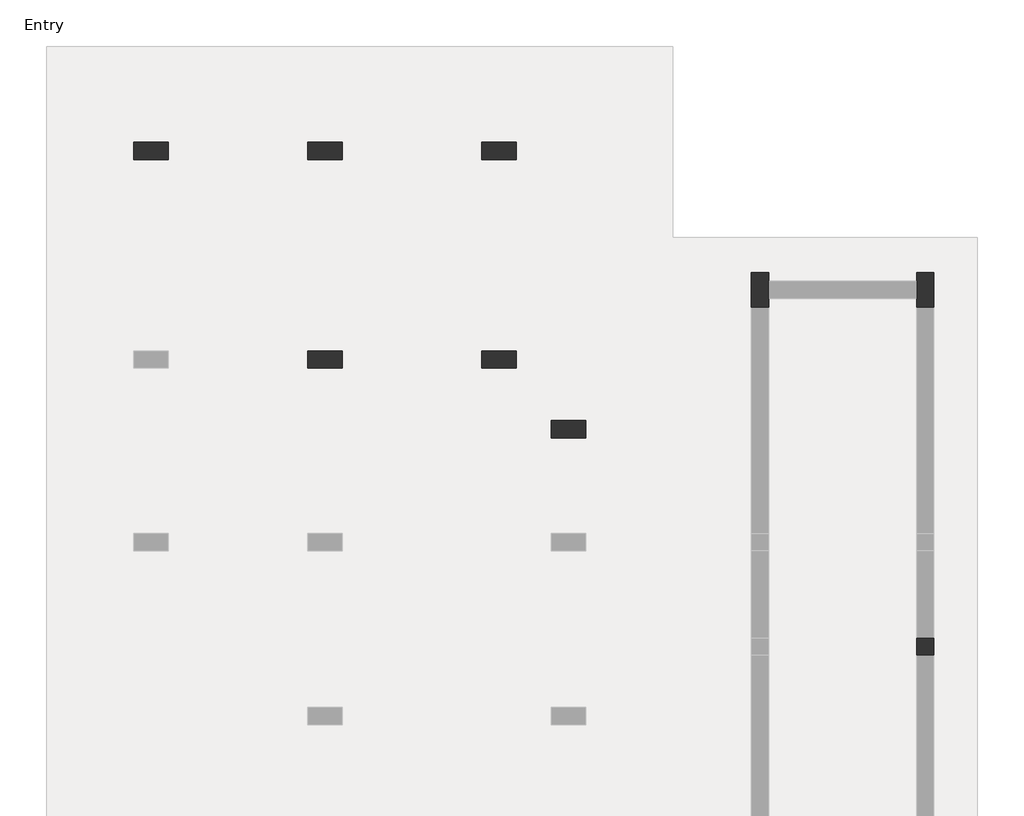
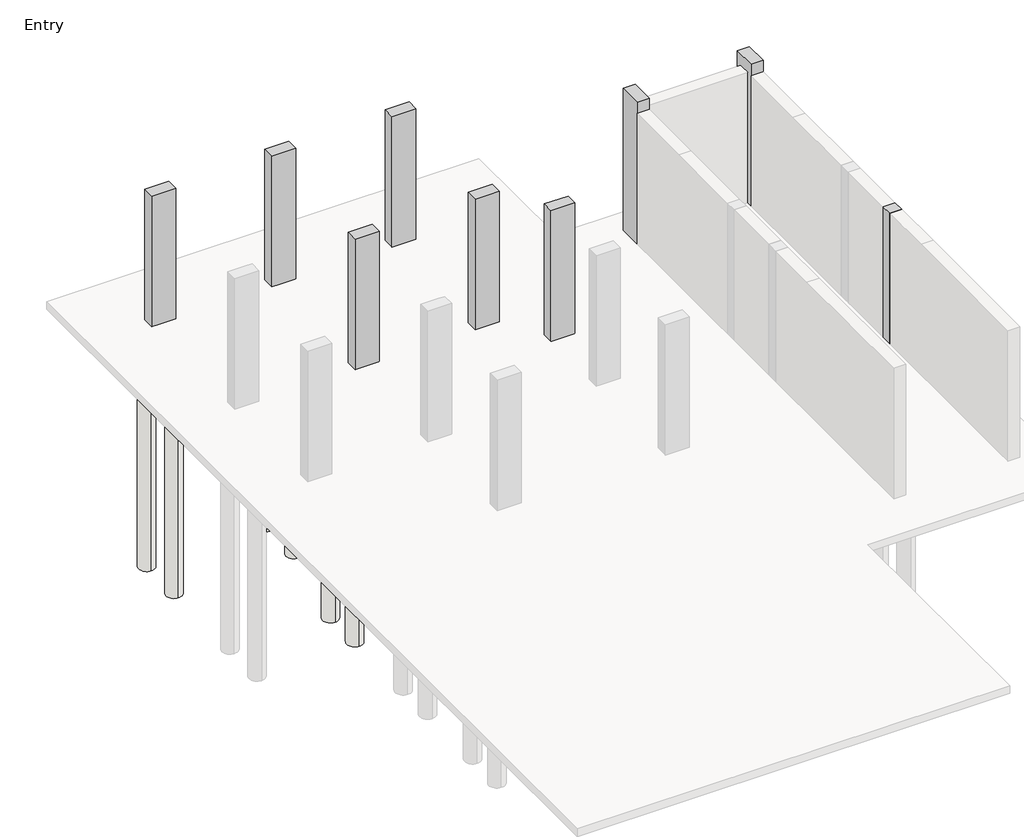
# One storey, part 3 of 3: 30 slabs, 16 columns, 3 footings.
"""IFC4 building model written with IfcOpenShell, lengths in millimetres."""

import ifcopenshell
import ifcopenshell.guid

model = None  # the IFC model being written
_history = None  # IfcOwnerHistory: only IFC2X3 demands one
_inside = {}  # id of a spatial element -> (the spatial element, [elements in it])
_under = {}  # id of a project, library or spatial element -> (it, [spatial elements below it])
_declared = {}  # id of a project -> (the project, [libraries it declares])
_typed = {}  # id of a type object -> (the type object, [elements of that type])
_made_of = {}  # id of a material, layer set ... -> (it, [elements and type objects made of it])


def new_model(schema):
    """Start an empty IFC model of exactly this schema.

    Asked for "IFC4X3", IfcOpenShell would pick the latest addendum, in which some entities
    have other attributes; the version numbers below select the first issue.
    IFC2X3 requires an IfcOwnerHistory on every rooted entity: one is made here for all.
    """
    global model, _history
    if schema == "IFC4X3":
        model = ifcopenshell.file(schema_version=(4, 3, 0, 0))
    else:
        model = ifcopenshell.file(schema=schema)
    _inside.clear()
    _under.clear()
    _declared.clear()
    _typed.clear()
    _made_of.clear()
    _history = None
    if model.schema == "IFC2X3":
        org = make("IfcOrganization", Name="unknown")
        user = make(
            "IfcPersonAndOrganization",
            ThePerson=make("IfcPerson", FamilyName="unknown"),
            TheOrganization=org,
        )
        app = make(
            "IfcApplication",
            ApplicationDeveloper=org,
            Version="unknown",
            ApplicationFullName="unknown",
            ApplicationIdentifier="unknown",
        )
        _history = make(
            "IfcOwnerHistory",
            OwningUser=user,
            OwningApplication=app,
            ChangeAction="ADDED",
            CreationDate=0,
        )
    return model


def make(cls, **values):
    """One entity of the class cls with the attributes given. An attribute that is None is left unset."""
    return model.create_entity(
        cls, **{name: value for name, value in values.items() if value is not None}
    )


def rooted(cls, **values):
    """An entity with a GlobalId (a new one), such as an element, a storey or a relation."""
    return make(cls, GlobalId=ifcopenshell.guid.new(), OwnerHistory=_history, **values)


def si_unit(unit_type, name, prefix=None):
    """IfcSIUnit, for example si_unit("LENGTHUNIT", "METRE", prefix="MILLI")."""
    return make("IfcSIUnit", UnitType=unit_type, Prefix=prefix, Name=name)


def assignment(units):
    """IfcUnitAssignment: the units of a project."""
    return None if units is None else make("IfcUnitAssignment", Units=units)


def point(xyz):
    """IfcCartesianPoint."""
    return None if xyz is None else make("IfcCartesianPoint", Coordinates=xyz)


def direction(xyz):
    """IfcDirection."""
    return None if xyz is None else make("IfcDirection", DirectionRatios=xyz)


def frame(location, z_axis=None, x_axis=None):
    """IfcAxis2Placement3D, a coordinate frame: its origin and axes. An axis left out is left unset."""
    return make(
        "IfcAxis2Placement3D",
        Location=point(location),
        Axis=direction(z_axis),
        RefDirection=direction(x_axis),
    )


def frame_2d(location, x_axis=None):
    """IfcAxis2Placement2D, a coordinate frame in the plane: its origin and x axis."""
    return make(
        "IfcAxis2Placement2D", Location=point(location), RefDirection=direction(x_axis)
    )


def origin():
    """The frame at (0, 0, 0) with its axes left unset."""
    return frame((0.0, 0.0, 0.0))


def origin_with_axes():
    """The frame at (0, 0, 0) with the z axis (0, 0, 1) and the x axis (1, 0, 0) written out."""
    return frame((0.0, 0.0, 0.0), z_axis=(0.0, 0.0, 1.0), x_axis=(1.0, 0.0, 0.0))


def place(relative_to, where):
    """IfcLocalPlacement: puts the frame where relative to a parent placement (None: the world)."""
    return make(
        "IfcLocalPlacement", PlacementRelTo=relative_to, RelativePlacement=where
    )


def context(
    kind, dimensions, precision=None, world=None, true_north=None, identifier=None
):
    """IfcGeometricRepresentationContext, for example the 3D "Model" context."""
    return make(
        "IfcGeometricRepresentationContext",
        ContextIdentifier=identifier,
        ContextType=kind,
        CoordinateSpaceDimension=dimensions,
        Precision=precision,
        WorldCoordinateSystem=world,
        TrueNorth=true_north,
    )


def project(units=None, contexts=None):
    """IfcProject with its units and contexts."""
    return rooted(
        "IfcProject",
        Name="project",
        RepresentationContexts=contexts,
        UnitsInContext=assignment(units),
    )


def spatial(cls, under=None, at=None, **own):
    """A site, building, storey or space (cls), placed at a placement, below another one or the project."""
    s = rooted(cls, ObjectPlacement=at, **own)
    if under is not None:
        _under.setdefault(under.id(), (under, []))[1].append(s)
    return s


def polyline(points):
    """IfcPolyline through the points."""
    return make("IfcPolyline", Points=[point(p) for p in points])


def circle_curve(where, radius):
    """IfcCircle in the frame where."""
    return make("IfcCircle", Position=where, Radius=radius)


def trimmed(basis, trim1, trim2, sense, master):
    """IfcTrimmedCurve: the piece of a basis curve between two trims."""
    return make(
        "IfcTrimmedCurve",
        BasisCurve=basis,
        Trim1=trim1,
        Trim2=trim2,
        SenseAgreement=sense,
        MasterRepresentation=master,
    )


def segment(curve, same_sense, transition):
    """IfcCompositeCurveSegment."""
    return make(
        "IfcCompositeCurveSegment",
        Transition=transition,
        SameSense=same_sense,
        ParentCurve=curve,
    )


def composite_curve(segments, self_intersect=None):
    """IfcCompositeCurve: segments joined end to end."""
    return make("IfcCompositeCurve", Segments=segments, SelfIntersect=self_intersect)


def outline(outer, holes=None, kind="AREA"):
    """IfcArbitraryClosedProfileDef: a profile drawn as a closed curve; with holes, ...WithVoids."""
    if holes is None:
        return make("IfcArbitraryClosedProfileDef", ProfileType=kind, OuterCurve=outer)
    return make(
        "IfcArbitraryProfileDefWithVoids",
        ProfileType=kind,
        OuterCurve=outer,
        InnerCurves=holes,
    )


def extrude(swept, where, along, depth):
    """IfcExtrudedAreaSolid: the profile swept, set in the frame where, extruded along a direction by depth."""
    return make(
        "IfcExtrudedAreaSolid",
        SweptArea=swept,
        Position=where,
        ExtrudedDirection=direction(along),
        Depth=depth,
    )


def faces_of(points, faces, orient=None, outer=None):
    """IfcFace entities. A face is a list of loops; a loop is a list of indices into points, from 0.

    orient and outer hold one flag for each loop. By default every Orientation is true, the
    first loop of a face is its IfcFaceOuterBound and the others are IfcFaceBound.
    """
    made = []
    for i, loops in enumerate(faces):
        bounds = []
        for j, loop in enumerate(loops):
            is_outer = j == 0 if outer is None else outer[i][j]
            bounds.append(
                make(
                    "IfcFaceOuterBound" if is_outer else "IfcFaceBound",
                    Bound=make("IfcPolyLoop", Polygon=[points[k] for k in loop]),
                    Orientation=True if orient is None else orient[i][j],
                )
            )
        made.append(make("IfcFace", Bounds=bounds))
    return made


def faceted_brep(points, faces, orient=None, outer=None, voids=None):
    """IfcFacetedBrep: a solid bounded by flat faces; with voids (closed shells), ...WithVoids."""
    shared = [point(p) for p in points]
    hull = make("IfcClosedShell", CfsFaces=faces_of(shared, faces, orient, outer))
    if voids is None:
        return make("IfcFacetedBrep", Outer=hull)
    return make(
        "IfcFacetedBrepWithVoids",
        Outer=hull,
        Voids=[
            make(cls, CfsFaces=faces_of(shared, fs, o, b)) for cls, fs, o, b in voids
        ],
    )


def shape(context_of_items, identifier, shape_type, items):
    """IfcShapeRepresentation: the items that make up one representation, for example the "Body"."""
    return make(
        "IfcShapeRepresentation",
        ContextOfItems=context_of_items,
        RepresentationIdentifier=identifier,
        RepresentationType=shape_type,
        Items=items,
    )


def made_of(thing, what):
    """Note that an element or type object is made of a material, layer set ...; save() writes the relation."""
    if what is not None:
        _made_of.setdefault(what.id(), (what, []))[1].append(thing)
    return thing


def element(
    cls,
    number,
    at=None,
    inside=None,
    cuts=None,
    type_object=None,
    material=None,
    context=None,
    identifier="Body",
    shape_type=None,
    held_by="IfcProductDefinitionShape",
    body=None,
    shapes=None,
    **own,
):
    """One element of the class cls, such as IfcWall. Its Tag is "e" and its number.

    at: its placement. inside: the storey or other place that contains it. cuts: it is an
    opening in that element (IfcRelVoidsElement). A single representation is given by context,
    identifier, shape_type and body (its items); several are given by shapes. held_by: the class
    of the entity that holds the representations. save() writes the other relations.
    """
    e = rooted(cls, Tag="e%d" % number, ObjectPlacement=at, **own)
    if body is not None:
        shapes = [shape(context, identifier, shape_type, body)]
    if shapes is not None:
        e.Representation = make(held_by, Representations=shapes)
    if inside is not None:
        _inside.setdefault(inside.id(), (inside, []))[1].append(e)
    if cuts is not None:
        rooted(
            "IfcRelVoidsElement", RelatingBuildingElement=cuts, RelatedOpeningElement=e
        )
    if type_object is not None:
        _typed.setdefault(type_object.id(), (type_object, []))[1].append(e)
    return made_of(e, material)


def aggregate(whole, parts):
    """IfcRelAggregates: a whole, such as a stair, and the parts it consists of."""
    return rooted("IfcRelAggregates", RelatingObject=whole, RelatedObjects=parts)


def save(model, path):
    """Write the relations noted so far, then the file.

    IfcRelAggregates (storeys below a building ...), IfcRelContainedInSpatialStructure (elements
    in a storey), IfcRelDefinesByType, IfcRelAssociatesMaterial and IfcRelDeclares: one each for
    every whole, place, type object, material and project.
    """
    for whole, parts in _under.values():
        aggregate(whole, parts)
    for where, things in _inside.values():
        rooted(
            "IfcRelContainedInSpatialStructure",
            RelatedElements=things,
            RelatingStructure=where,
        )
    for kind, things in _typed.values():
        rooted("IfcRelDefinesByType", RelatedObjects=things, RelatingType=kind)
    for what, things in _made_of.values():
        rooted("IfcRelAssociatesMaterial", RelatedObjects=things, RelatingMaterial=what)
    for by, libraries in _declared.values():
        rooted("IfcRelDeclares", RelatingContext=by, RelatedDefinitions=libraries)
    model.write(path)


model = new_model("IFC4")

# Units and contexts
model_context = context("Model", 3, world=origin())
ifc_project = project(units=[si_unit("LENGTHUNIT", "METRE", prefix="MILLI")], contexts=[model_context])

# Site, building, storey
site = spatial("IfcSite", under=ifc_project)
building = spatial("IfcBuilding", under=site)
storey = spatial("IfcBuildingStorey", under=building, Name="Entry", Elevation=0.0)

# Columns
placement = place(None, origin())
element("IfcColumn", 1, ObjectType="Concrete-Rectangular-Column : 12 x 24", at=placement, inside=storey, context=model_context, shape_type="Brep", body=[
    faceted_brep([(-15677.5554735, 14646.9867088, 0.0), (-15067.9554735, 14646.9867088, 0.0), (-15067.9554735, 14342.1867088, 0.0), (-15677.5554735, 14342.1867088, 0.0), (-15677.5554735, 14646.9867088, 3505.2), (-15067.9554735, 14646.9867088, 3505.2), (-15067.9554735, 14646.9867088, 2895.6), (-15067.9554735, 14342.1867088, 3505.2), (-15067.9554735, 14342.1867088, 2895.6), (-15220.3554735, 14342.1867088, 3505.2), (-15525.1554735, 14342.1867088, 3505.2), (-15677.5554735, 14342.1867088, 3505.2)], [[[0, 1, 2, 3]], [[4, 5, 6, 1, 0]], [[5, 7, 8, 2, 1, 6]], [[7, 9, 10, 11, 3, 2, 8]], [[11, 4, 0, 3]], [[4, 11, 10, 9, 7, 5]]]),
])
element("IfcColumn", 2, ObjectType="Concrete-Rectangular-Column : 12 x 24", at=placement, inside=storey, context=model_context, shape_type="Brep", body=[
    faceted_brep([(-12629.5554735, 14646.9867088, 0.0), (-12019.9554735, 14646.9867088, 0.0), (-12019.9554735, 14342.1867088, 0.0), (-12629.5554735, 14342.1867088, 0.0), (-12629.5554735, 14646.9867088, 3505.2), (-12019.9554735, 14646.9867088, 3505.2), (-12019.9554735, 14646.9867088, 2895.6), (-12629.5554735, 14646.9867088, 2895.6), (-12019.9554735, 14342.1867088, 3505.2), (-12019.9554735, 14342.1867088, 2895.6), (-12172.3554735, 14342.1867088, 3505.2), (-12477.1554735, 14342.1867088, 3505.2), (-12629.5554735, 14342.1867088, 3505.2), (-12629.5554735, 14342.1867088, 2895.6)], [[[0, 1, 2, 3]], [[4, 5, 6, 1, 0, 7]], [[5, 8, 9, 2, 1, 6]], [[8, 10, 11, 12, 13, 3, 2, 9]], [[12, 4, 7, 0, 3, 13]], [[4, 12, 11, 10, 8, 5]]]),
])
element("IfcColumn", 3, ObjectType="Concrete-Rectangular-Column : 12 x 24", at=placement, inside=storey, context=model_context, shape_type="Brep", body=[
    faceted_brep([(-9581.5554735, 14646.9867088, 0.0), (-8971.9554735, 14646.9867088, 0.0), (-8971.9554735, 14342.1867088, 0.0), (-9581.5554735, 14342.1867088, 0.0), (-9581.5554735, 14646.9867088, 3505.2), (-8971.9554735, 14646.9867088, 3505.2), (-9581.5554735, 14646.9867088, 2895.6), (-8971.9554735, 14342.1867088, 3505.2), (-9124.3554735, 14342.1867088, 3505.2), (-9429.1554735, 14342.1867088, 3505.2), (-9581.5554735, 14342.1867088, 3505.2), (-9581.5554735, 14342.1867088, 2895.6)], [[[0, 1, 2, 3]], [[4, 5, 1, 0, 6]], [[5, 7, 2, 1]], [[7, 8, 9, 10, 11, 3, 2]], [[10, 4, 6, 0, 3, 11]], [[4, 10, 9, 8, 7, 5]]]),
])
element("IfcColumn", 4, ObjectType="Concrete-Rectangular-Column : 12 x 24", at=placement, inside=storey, context=model_context, shape_type="Brep", body=[
    faceted_brep([(-12629.5554735, 10989.3867088, 0.0), (-12019.9554735, 10989.3867088, 0.0), (-12019.9554735, 10684.5867088, 0.0), (-12629.5554735, 10684.5867088, 0.0), (-12629.5554735, 10989.3867088, 3505.2), (-12477.1554735, 10989.3867088, 3505.2), (-12172.3554735, 10989.3867088, 3505.2), (-12019.9554735, 10989.3867088, 3505.2), (-12019.9554735, 10989.3867088, 2895.6), (-12629.5554735, 10989.3867088, 2895.6), (-12019.9554735, 10684.5867088, 3505.2), (-12019.9554735, 10684.5867088, 2895.6), (-12172.3554735, 10684.5867088, 3505.2), (-12477.1554735, 10684.5867088, 3505.2), (-12629.5554735, 10684.5867088, 3505.2), (-12629.5554735, 10684.5867088, 2895.6)], [[[0, 1, 2, 3]], [[4, 5, 6, 7, 8, 1, 0, 9]], [[7, 10, 11, 2, 1, 8]], [[10, 12, 13, 14, 15, 3, 2, 11]], [[14, 4, 9, 0, 3, 15]], [[4, 14, 13, 12, 10, 7, 6, 5]]]),
])
element("IfcColumn", 5, ObjectType="Concrete-Rectangular-Column : 12 x 24", at=placement, inside=storey, context=model_context, shape_type="Brep", body=[
    faceted_brep([(-9581.5554735, 10989.3867088, 0.0), (-8971.9554735, 10989.3867088, 0.0), (-8971.9554735, 10684.5867088, 0.0), (-9581.5554735, 10684.5867088, 0.0), (-9581.5554735, 10989.3867088, 3505.2), (-9429.1554735, 10989.3867088, 3505.2), (-9124.3554735, 10989.3867088, 3505.2), (-8971.9554735, 10989.3867088, 3505.2), (-9581.5554735, 10989.3867088, 2895.6), (-8971.9554735, 10684.5867088, 3505.2), (-9124.3554735, 10684.5867088, 3505.2), (-9429.1554735, 10684.5867088, 3505.2), (-9581.5554735, 10684.5867088, 3505.2), (-9581.5554735, 10684.5867088, 2895.6)], [[[0, 1, 2, 3]], [[4, 5, 6, 7, 1, 0, 8]], [[7, 9, 2, 1]], [[9, 10, 11, 12, 13, 3, 2]], [[12, 4, 8, 0, 3, 13]], [[4, 12, 11, 10, 9, 7, 6, 5]]]),
])
element("IfcColumn", 6, ObjectType="Concrete-Rectangular-Column : 12 x 24", at=placement, inside=storey, context=model_context, shape_type="Brep", body=[
    faceted_brep([(-8362.3554735, 9770.1867088, 0.0), (-7752.7554735, 9770.1867088, 0.0), (-7752.7554735, 9465.3867088, 0.0), (-8362.3554735, 9465.3867088, 0.0), (-8362.3554735, 9770.1867088, 3505.2), (-7752.7554735, 9770.1867088, 3505.2), (-8362.3554735, 9770.1867088, 2895.6), (-7752.7554735, 9465.3867088, 3505.2), (-7905.1554735, 9465.3867088, 3505.2), (-8209.9554735, 9465.3867088, 3505.2), (-8362.3554735, 9465.3867088, 3505.2), (-8362.3554735, 9465.3867088, 2895.6)], [[[0, 1, 2, 3]], [[4, 5, 1, 0, 6]], [[5, 7, 2, 1]], [[7, 8, 9, 10, 11, 3, 2]], [[10, 4, 6, 0, 3, 11]], [[4, 10, 9, 8, 7, 5]]]),
])
element("IfcColumn", 7, ObjectType="Concrete-Rectangular-Column : 12 x 24", at=placement, inside=storey, context=model_context, shape_type="Brep", body=[
    faceted_brep([(-4552.3554735, 12360.9867088, 0.0), (-4552.3554735, 12208.5867088, 0.0), (-4552.3554735, 11903.7867088, 0.0), (-4552.3554735, 11751.3867088, 0.0), (-4857.1554735, 11751.3867088, 0.0), (-4857.1554735, 12360.9867088, 0.0), (-4552.3554735, 12360.9867088, 3810.0), (-4552.3554735, 11751.3867088, 3810.0), (-4552.3554735, 11751.3867088, 3505.2), (-4857.1554735, 11751.3867088, 3810.0), (-4857.1554735, 11751.3867088, 3505.2), (-4857.1554735, 12360.9867088, 3810.0)], [[[0, 1, 2, 3, 4, 5]], [[6, 7, 8, 3, 2, 1, 0]], [[7, 9, 10, 4, 3, 8]], [[9, 11, 5, 4, 10]], [[11, 6, 0, 5]], [[6, 11, 9, 7]]]),
])
element("IfcColumn", 8, ObjectType="Concrete-Rectangular-Column : 12 x 24", at=placement, inside=storey, context=model_context, shape_type="Brep", body=[
    faceted_brep([(-1656.7554735, 12360.9867088, 0.0), (-1656.7554735, 11751.3867088, 0.0), (-1961.5554735, 11751.3867088, 0.0), (-1961.5554735, 11903.7867088, 0.0), (-1961.5554735, 12208.5867088, 0.0), (-1961.5554735, 12360.9867088, 0.0), (-1656.7554735, 12360.9867088, 3810.0), (-1656.7554735, 11751.3867088, 3810.0), (-1656.7554735, 11751.3867088, 3505.2), (-1961.5554735, 11751.3867088, 3810.0), (-1961.5554735, 11751.3867088, 3505.2), (-1961.5554735, 12360.9867088, 3810.0)], [[[0, 1, 2, 3, 4, 5]], [[6, 7, 8, 1, 0]], [[7, 9, 10, 2, 1, 8]], [[9, 11, 5, 4, 3, 2, 10]], [[11, 6, 0, 5]], [[6, 11, 9, 7]]]),
])
element("IfcColumn", 9, ObjectType="Concrete-Rectangular-Column : 12 x 24", at=placement, inside=storey, context=model_context, shape_type="SweptSolid", body=[
    extrude(outline(polyline([(-1961.5554735, 5960.1867088), (-1656.7554735, 5960.1867088), (-1656.7554735, 5655.3867088), (-1961.5554735, 5655.3867088), (-1961.5554735, 5960.1867088)])), origin_with_axes(), (0.0, 0.0, 1.0), 3505.2),
])
element("IfcColumn", 10, ObjectType="Concrete-Rectangular-Column : 12 x 24", at=placement, inside=storey, context=model_context, shape_type="Brep", body=[
    faceted_brep([(-15677.5554735, 14646.9867088, 0.0), (-15067.9554735, 14646.9867088, 0.0), (-15067.9554735, 14342.1867088, 0.0), (-15677.5554735, 14342.1867088, 0.0), (-15677.5554735, 14646.9867088, 3505.2), (-15067.9554735, 14646.9867088, 3505.2), (-15067.9554735, 14646.9867088, 2895.6), (-15067.9554735, 14342.1867088, 3505.2), (-15067.9554735, 14342.1867088, 2895.6), (-15220.3554735, 14342.1867088, 3505.2), (-15525.1554735, 14342.1867088, 3505.2), (-15677.5554735, 14342.1867088, 3505.2)], [[[0, 1, 2, 3]], [[4, 5, 6, 1, 0]], [[5, 7, 8, 2, 1, 6]], [[7, 9, 10, 11, 3, 2, 8]], [[11, 4, 0, 3]], [[4, 11, 10, 9, 7, 5]]]),
])
element("IfcColumn", 11, ObjectType="Concrete-Rectangular-Column : 12 x 24", at=placement, inside=storey, context=model_context, shape_type="Brep", body=[
    faceted_brep([(-12629.5554735, 14646.9867088, 0.0), (-12019.9554735, 14646.9867088, 0.0), (-12019.9554735, 14342.1867088, 0.0), (-12629.5554735, 14342.1867088, 0.0), (-12629.5554735, 14646.9867088, 3505.2), (-12019.9554735, 14646.9867088, 3505.2), (-12019.9554735, 14646.9867088, 2895.6), (-12629.5554735, 14646.9867088, 2895.6), (-12019.9554735, 14342.1867088, 3505.2), (-12019.9554735, 14342.1867088, 2895.6), (-12172.3554735, 14342.1867088, 3505.2), (-12477.1554735, 14342.1867088, 3505.2), (-12629.5554735, 14342.1867088, 3505.2), (-12629.5554735, 14342.1867088, 2895.6)], [[[0, 1, 2, 3]], [[4, 5, 6, 1, 0, 7]], [[5, 8, 9, 2, 1, 6]], [[8, 10, 11, 12, 13, 3, 2, 9]], [[12, 4, 7, 0, 3, 13]], [[4, 12, 11, 10, 8, 5]]]),
])
element("IfcColumn", 12, ObjectType="Concrete-Rectangular-Column : 12 x 24", at=placement, inside=storey, context=model_context, shape_type="Brep", body=[
    faceted_brep([(-9581.5554735, 14646.9867088, 0.0), (-8971.9554735, 14646.9867088, 0.0), (-8971.9554735, 14342.1867088, 0.0), (-9581.5554735, 14342.1867088, 0.0), (-9581.5554735, 14646.9867088, 3505.2), (-8971.9554735, 14646.9867088, 3505.2), (-9581.5554735, 14646.9867088, 2895.6), (-8971.9554735, 14342.1867088, 3505.2), (-9124.3554735, 14342.1867088, 3505.2), (-9429.1554735, 14342.1867088, 3505.2), (-9581.5554735, 14342.1867088, 3505.2), (-9581.5554735, 14342.1867088, 2895.6)], [[[0, 1, 2, 3]], [[4, 5, 1, 0, 6]], [[5, 7, 2, 1]], [[7, 8, 9, 10, 11, 3, 2]], [[10, 4, 6, 0, 3, 11]], [[4, 10, 9, 8, 7, 5]]]),
])
element("IfcColumn", 13, ObjectType="Concrete-Rectangular-Column : 12 x 24", at=placement, inside=storey, context=model_context, shape_type="Brep", body=[
    faceted_brep([(-12629.5554735, 10989.3867088, 0.0), (-12019.9554735, 10989.3867088, 0.0), (-12019.9554735, 10684.5867088, 0.0), (-12629.5554735, 10684.5867088, 0.0), (-12629.5554735, 10989.3867088, 3505.2), (-12477.1554735, 10989.3867088, 3505.2), (-12172.3554735, 10989.3867088, 3505.2), (-12019.9554735, 10989.3867088, 3505.2), (-12019.9554735, 10989.3867088, 2895.6), (-12629.5554735, 10989.3867088, 2895.6), (-12019.9554735, 10684.5867088, 3505.2), (-12019.9554735, 10684.5867088, 2895.6), (-12172.3554735, 10684.5867088, 3505.2), (-12477.1554735, 10684.5867088, 3505.2), (-12629.5554735, 10684.5867088, 3505.2), (-12629.5554735, 10684.5867088, 2895.6)], [[[0, 1, 2, 3]], [[4, 5, 6, 7, 8, 1, 0, 9]], [[7, 10, 11, 2, 1, 8]], [[10, 12, 13, 14, 15, 3, 2, 11]], [[14, 4, 9, 0, 3, 15]], [[4, 14, 13, 12, 10, 7, 6, 5]]]),
])
element("IfcColumn", 14, ObjectType="Concrete-Rectangular-Column : 12 x 24", at=placement, inside=storey, context=model_context, shape_type="Brep", body=[
    faceted_brep([(-9581.5554735, 10989.3867088, 0.0), (-8971.9554735, 10989.3867088, 0.0), (-8971.9554735, 10684.5867088, 0.0), (-9581.5554735, 10684.5867088, 0.0), (-9581.5554735, 10989.3867088, 3505.2), (-9429.1554735, 10989.3867088, 3505.2), (-9124.3554735, 10989.3867088, 3505.2), (-8971.9554735, 10989.3867088, 3505.2), (-9581.5554735, 10989.3867088, 2895.6), (-8971.9554735, 10684.5867088, 3505.2), (-9124.3554735, 10684.5867088, 3505.2), (-9429.1554735, 10684.5867088, 3505.2), (-9581.5554735, 10684.5867088, 3505.2), (-9581.5554735, 10684.5867088, 2895.6)], [[[0, 1, 2, 3]], [[4, 5, 6, 7, 1, 0, 8]], [[7, 9, 2, 1]], [[9, 10, 11, 12, 13, 3, 2]], [[12, 4, 8, 0, 3, 13]], [[4, 12, 11, 10, 9, 7, 6, 5]]]),
])
element("IfcColumn", 15, ObjectType="Concrete-Rectangular-Column : 12 x 24", at=placement, inside=storey, context=model_context, shape_type="Brep", body=[
    faceted_brep([(-8362.3554735, 9770.1867088, 0.0), (-7752.7554735, 9770.1867088, 0.0), (-7752.7554735, 9465.3867088, 0.0), (-8362.3554735, 9465.3867088, 0.0), (-8362.3554735, 9770.1867088, 3505.2), (-7752.7554735, 9770.1867088, 3505.2), (-8362.3554735, 9770.1867088, 2895.6), (-7752.7554735, 9465.3867088, 3505.2), (-7905.1554735, 9465.3867088, 3505.2), (-8209.9554735, 9465.3867088, 3505.2), (-8362.3554735, 9465.3867088, 3505.2), (-8362.3554735, 9465.3867088, 2895.6)], [[[0, 1, 2, 3]], [[4, 5, 1, 0, 6]], [[5, 7, 2, 1]], [[7, 8, 9, 10, 11, 3, 2]], [[10, 4, 6, 0, 3, 11]], [[4, 10, 9, 8, 7, 5]]]),
])
element("IfcColumn", 16, ObjectType="Concrete-Rectangular-Column : 12 x 24", at=placement, inside=storey, context=model_context, shape_type="Brep", body=[
    faceted_brep([(-4552.3554735, 12360.9867088, 0.0), (-4552.3554735, 12208.5867088, 0.0), (-4552.3554735, 11903.7867088, 0.0), (-4552.3554735, 11751.3867088, 0.0), (-4857.1554735, 11751.3867088, 0.0), (-4857.1554735, 12360.9867088, 0.0), (-4552.3554735, 12360.9867088, 3810.0), (-4552.3554735, 11751.3867088, 3810.0), (-4552.3554735, 11751.3867088, 3505.2), (-4857.1554735, 11751.3867088, 3810.0), (-4857.1554735, 11751.3867088, 3505.2), (-4857.1554735, 12360.9867088, 3810.0)], [[[0, 1, 2, 3, 4, 5]], [[6, 7, 8, 3, 2, 1, 0]], [[7, 9, 10, 4, 3, 8]], [[9, 11, 5, 4, 10]], [[11, 6, 0, 5]], [[6, 11, 9, 7]]]),
])

# Footings
element("IfcFooting", 17, ObjectType="Bearing Footing - 36\" x 12\"", at=placement, inside=storey, context=model_context, shape_type="Brep", body=[
    faceted_brep([(-4552.3554735, 12513.3867088, -304.8), (-4552.3554735, 12462.5867088, -304.8), (-4552.3554735, 12462.5867088, -203.2), (-4552.3554735, 12513.3867088, -203.2), (-4552.3554735, 11649.7867088, -304.8), (-4552.3554735, 11598.9867088, -304.8), (-4552.3554735, 11598.9867088, -203.2), (-4552.3554735, 11649.7867088, -203.2), (-1961.5554735, 12462.5867088, -304.8), (-1961.5554735, 12513.3867088, -304.8), (-1961.5554735, 12513.3867088, -203.2), (-1961.5554735, 12462.5867088, -203.2), (-1961.5554735, 11598.9867088, -304.8), (-1961.5554735, 11649.7867088, -304.8), (-1961.5554735, 11649.7867088, -203.2), (-1961.5554735, 11598.9867088, -203.2), (-2710.8554735, 12462.5867088, -304.8), (-2710.8554735, 11649.7867088, -304.8), (-2266.3554735, 11598.9867088, -304.8), (-4247.5554735, 11598.9867088, -304.8), (-3803.0554735, 11649.7867088, -304.8), (-3803.0554735, 12462.5867088, -304.8), (-2266.3554735, 11598.9867088, -203.2), (-4247.5554735, 11598.9867088, -203.2), (-3803.0554735, 12462.5867088, -203.2), (-3803.0554735, 11649.7867088, -203.2), (-2710.8554735, 12462.5867088, -203.2), (-2710.8554735, 11649.7867088, -203.2)], [[[0, 1, 2, 3]], [[4, 5, 6, 7]], [[8, 9, 10, 11]], [[12, 13, 14, 15]], [[9, 0, 3, 10]], [[0, 9, 8, 16, 17, 13, 12, 18, 19, 5, 4, 20, 21, 1]], [[5, 19, 18, 12, 15, 22, 23, 6]], [[1, 21, 24, 2]], [[20, 4, 7, 25]], [[21, 20, 25, 24]], [[16, 8, 11, 26]], [[17, 16, 26, 27]], [[13, 17, 27, 14]], [[3, 2, 24, 25, 7, 6, 23, 22, 15, 14, 27, 26, 11, 10]]]),
])
element("IfcFooting", 18, ObjectType="Bearing Footing - 36\" x 12\"", at=placement, inside=storey, context=model_context, shape_type="SweptSolid", body=[
    extrude(outline(polyline([(-1351.9554735, 11649.7867088), (-1351.9554735, 7788.9867088), (-1402.7554735, 7788.9867088), (-1402.7554735, 8538.2867088), (-2215.5554735, 8538.2867088), (-2215.5554735, 7788.9867088), (-2266.3554735, 7788.9867088), (-2266.3554735, 11598.9867088), (-1961.5554735, 11598.9867088), (-1961.5554735, 11649.7867088), (-1351.9554735, 11649.7867088)])), frame((0.0, 0.0, -304.8), z_axis=(0.0, 0.0, 1.0), x_axis=(1.0, 0.0, 0.0)), (0.0, 0.0, 1.0), 101.6),
])
element("IfcFooting", 19, ObjectType="Bearing Footing - 36\" x 12\"", at=placement, inside=storey, context=model_context, shape_type="SweptSolid", body=[
    extrude(outline(polyline([(-5161.9554735, 7788.9867088), (-5161.9554735, 11649.7867088), (-4552.3554735, 11649.7867088), (-4552.3554735, 11598.9867088), (-4247.5554735, 11598.9867088), (-4247.5554735, 7788.9867088), (-4298.3554735, 7788.9867088), (-4298.3554735, 8538.2867088), (-5111.1554735, 8538.2867088), (-5111.1554735, 7788.9867088), (-5161.9554735, 7788.9867088)])), frame((0.0, 0.0, -304.8), z_axis=(0.0, 0.0, 1.0), x_axis=(1.0, 0.0, 0.0)), (0.0, 0.0, 1.0), 101.6),
])

# Slabs
element("IfcSlab", 20, ObjectType="Pile Cap-2 Pile : 31\"x61\"x35\"", at=placement, inside=storey, context=model_context, shape_type="SweptSolid", body=[
    extrude(outline(polyline([(-15779.1554735, 15396.2867088), (-14966.3554735, 15396.2867088), (-14966.3554735, 13592.8867088), (-15779.1554735, 13592.8867088), (-15779.1554735, 15396.2867088)])), frame((0.0, 0.0, -889.0), z_axis=(0.0, 0.0, 1.0), x_axis=(1.0, 0.0, 0.0)), (0.0, 0.0, 1.0), 685.8),
])
element("IfcSlab", 21, ObjectType="Pile Cap-2 Pile : 31\"x61\"x35\"", at=placement, inside=storey, context=model_context, shape_type="SweptSolid", body=[
    extrude(outline(polyline([(-12731.1554735, 15396.2867088), (-11918.3554735, 15396.2867088), (-11918.3554735, 13592.8867088), (-12731.1554735, 13592.8867088), (-12731.1554735, 15396.2867088)])), frame((0.0, 0.0, -889.0), z_axis=(0.0, 0.0, 1.0), x_axis=(1.0, 0.0, 0.0)), (0.0, 0.0, 1.0), 685.8),
])
element("IfcSlab", 22, ObjectType="Pile Cap-2 Pile : 31\"x61\"x35\"", at=placement, inside=storey, context=model_context, shape_type="SweptSolid", body=[
    extrude(outline(polyline([(-9683.1554735, 15396.2867088), (-8870.3554735, 15396.2867088), (-8870.3554735, 13592.8867088), (-9683.1554735, 13592.8867088), (-9683.1554735, 15396.2867088)])), frame((0.0, 0.0, -889.0), z_axis=(0.0, 0.0, 1.0), x_axis=(1.0, 0.0, 0.0)), (0.0, 0.0, 1.0), 685.8),
])
element("IfcSlab", 23, ObjectType="Pile Cap-2 Pile : 31\"x61\"x35\"", at=placement, inside=storey, context=model_context, shape_type="SweptSolid", body=[
    extrude(outline(polyline([(-9683.1554735, 11738.6867088), (-8870.3554735, 11738.6867088), (-8870.3554735, 9935.2867088), (-9683.1554735, 9935.2867088), (-9683.1554735, 11738.6867088)])), frame((0.0, 0.0, -889.0), z_axis=(0.0, 0.0, 1.0), x_axis=(1.0, 0.0, 0.0)), (0.0, 0.0, 1.0), 685.8),
])
element("IfcSlab", 24, ObjectType="Pile Cap-2 Pile : 31\"x61\"x35\"", at=placement, inside=storey, context=model_context, shape_type="Brep", body=[
    faceted_brep([(-3803.0554735, 12462.5867088, -889.0), (-3803.0554735, 11649.7867088, -889.0), (-5606.4554735, 11649.7867088, -889.0), (-5606.4554735, 12462.5867088, -889.0), (-5606.4554735, 12462.5867088, -203.2), (-4552.3554735, 12462.5867088, -203.2), (-3803.0554735, 12462.5867088, -203.2), (-3803.0554735, 12462.5867088, -304.8), (-5606.4554735, 11649.7867088, -203.2), (-3803.0554735, 11649.7867088, -304.8), (-3803.0554735, 11649.7867088, -203.2), (-4552.3554735, 11649.7867088, -203.2), (-5161.9554735, 11649.7867088, -203.2)], [[[0, 1, 2, 3]], [[0, 3, 4, 5, 6, 7]], [[3, 2, 8, 4]], [[2, 1, 9, 10, 11, 12, 8]], [[1, 0, 7, 6, 10, 9]], [[6, 5, 4, 8, 12, 11, 10]]]),
])
element("IfcSlab", 25, ObjectType="Pile Cap-2 Pile : 31\"x61\"x35\"", at=placement, inside=storey, context=model_context, shape_type="Brep", body=[
    faceted_brep([(-907.4554735, 12462.5867088, -889.0), (-907.4554735, 11649.7867088, -889.0), (-2710.8554735, 11649.7867088, -889.0), (-2710.8554735, 12462.5867088, -889.0), (-2710.8554735, 12462.5867088, -304.8), (-2710.8554735, 12462.5867088, -203.2), (-1961.5554735, 12462.5867088, -203.2), (-907.4554735, 12462.5867088, -203.2), (-2710.8554735, 11649.7867088, -304.8), (-2710.8554735, 11649.7867088, -203.2), (-907.4554735, 11649.7867088, -203.2), (-1351.9554735, 11649.7867088, -203.2), (-1961.5554735, 11649.7867088, -203.2)], [[[0, 1, 2, 3]], [[0, 3, 4, 5, 6, 7]], [[3, 2, 8, 9, 5, 4]], [[2, 1, 10, 11, 12, 9, 8]], [[1, 0, 7, 10]], [[7, 6, 5, 9, 12, 11, 10]]]),
])
element("IfcSlab", 26, ObjectType="Pile Cap-2 Pile : 31\"x61\"x35\"", at=placement, inside=storey, context=model_context, shape_type="SweptSolid", body=[
    extrude(outline(polyline([(-8463.9554735, 10519.4867088), (-7651.1554735, 10519.4867088), (-7651.1554735, 8716.0867088), (-8463.9554735, 8716.0867088), (-8463.9554735, 10519.4867088)])), frame((0.0, 0.0, -889.0), z_axis=(0.0, 0.0, 1.0), x_axis=(1.0, 0.0, 0.0)), (0.0, 0.0, 1.0), 685.8),
])
element("IfcSlab", 27, ObjectType="Pile Cap-4 Pile : 72\"x72\"x35\"", at=placement, inside=storey, context=model_context, shape_type="SweptSolid", body=[
    extrude(outline(polyline([(-13239.1554735, 11751.3867088), (-11410.3554735, 11751.3867088), (-11410.3554735, 9922.5867088), (-13239.1554735, 9922.5867088), (-13239.1554735, 11751.3867088)])), frame((0.0, 0.0, -889.0), z_axis=(0.0, 0.0, 1.0), x_axis=(1.0, 0.0, 0.0)), (0.0, 0.0, 1.0), 685.8),
])
element("IfcSlab", 28, ObjectType="Pile-Steel Pipe : 16\" Diameter", at=placement, inside=storey, context=model_context, shape_type="SweptSolid", body=[
    extrude(outline(composite_curve([segment(trimmed(circle_curve(frame_2d((-12858.1554735, 10303.5867088)), 203.2), [point((-12858.1554735, 10100.3867088))], [point((-12858.1554735, 10506.7867088))], False, "CARTESIAN"), True, "CONTINUOUS"), segment(trimmed(circle_curve(frame_2d((-12858.1554735, 10303.5867088)), 203.2), [point((-12858.1554735, 10506.7867088))], [point((-12858.1554735, 10100.3867088))], False, "CARTESIAN"), True, "CONTINUOUS")], self_intersect=False)), frame((0.0, 0.0, -6985.0), z_axis=(0.0, 0.0, 1.0), x_axis=(1.0, 0.0, 0.0)), (0.0, 0.0, 1.0), 6096.0),
])
element("IfcSlab", 29, ObjectType="Pile-Steel Pipe : 16\" Diameter", at=placement, inside=storey, context=model_context, shape_type="SweptSolid", body=[
    extrude(outline(composite_curve([segment(trimmed(circle_curve(frame_2d((-11791.3554735, 10303.5867088)), 203.2), [point((-11791.3554735, 10100.3867088))], [point((-11791.3554735, 10506.7867088))], False, "CARTESIAN"), True, "CONTINUOUS"), segment(trimmed(circle_curve(frame_2d((-11791.3554735, 10303.5867088)), 203.2), [point((-11791.3554735, 10506.7867088))], [point((-11791.3554735, 10100.3867088))], False, "CARTESIAN"), True, "CONTINUOUS")], self_intersect=False)), frame((0.0, 0.0, -6985.0), z_axis=(0.0, 0.0, 1.0), x_axis=(1.0, 0.0, 0.0)), (0.0, 0.0, 1.0), 6096.0),
])
element("IfcSlab", 30, ObjectType="Pile-Steel Pipe : 16\" Diameter", at=placement, inside=storey, context=model_context, shape_type="SweptSolid", body=[
    extrude(outline(composite_curve([segment(trimmed(circle_curve(frame_2d((-11791.3554735, 11370.3867088)), 203.2), [point((-11791.3554735, 11167.1867088))], [point((-11791.3554735, 11573.5867088))], False, "CARTESIAN"), True, "CONTINUOUS"), segment(trimmed(circle_curve(frame_2d((-11791.3554735, 11370.3867088)), 203.2), [point((-11791.3554735, 11573.5867088))], [point((-11791.3554735, 11167.1867088))], False, "CARTESIAN"), True, "CONTINUOUS")], self_intersect=False)), frame((0.0, 0.0, -6985.0), z_axis=(0.0, 0.0, 1.0), x_axis=(1.0, 0.0, 0.0)), (0.0, 0.0, 1.0), 6096.0),
])
element("IfcSlab", 31, ObjectType="Pile-Steel Pipe : 16\" Diameter", at=placement, inside=storey, context=model_context, shape_type="SweptSolid", body=[
    extrude(outline(composite_curve([segment(trimmed(circle_curve(frame_2d((-12858.1554735, 11370.3867088)), 203.2), [point((-12858.1554735, 11167.1867088))], [point((-12858.1554735, 11573.5867088))], False, "CARTESIAN"), True, "CONTINUOUS"), segment(trimmed(circle_curve(frame_2d((-12858.1554735, 11370.3867088)), 203.2), [point((-12858.1554735, 11573.5867088))], [point((-12858.1554735, 11167.1867088))], False, "CARTESIAN"), True, "CONTINUOUS")], self_intersect=False)), frame((0.0, 0.0, -6985.0), z_axis=(0.0, 0.0, 1.0), x_axis=(1.0, 0.0, 0.0)), (0.0, 0.0, 1.0), 6096.0),
])
element("IfcSlab", 32, ObjectType="Pile-Steel Pipe : 16\" Diameter", at=placement, inside=storey, context=model_context, shape_type="SweptSolid", body=[
    extrude(outline(composite_curve([segment(trimmed(circle_curve(frame_2d((-11791.3554735, 8169.9867088)), 203.2), [point((-11791.3554735, 7966.7867088))], [point((-11791.3554735, 8373.1867088))], False, "CARTESIAN"), True, "CONTINUOUS"), segment(trimmed(circle_curve(frame_2d((-11791.3554735, 8169.9867088)), 203.2), [point((-11791.3554735, 8373.1867088))], [point((-11791.3554735, 7966.7867088))], False, "CARTESIAN"), True, "CONTINUOUS")], self_intersect=False)), frame((0.0, 0.0, -6985.0), z_axis=(0.0, 0.0, 1.0), x_axis=(1.0, 0.0, 0.0)), (0.0, 0.0, 1.0), 6096.0),
])
element("IfcSlab", 33, ObjectType="Pile-Steel Pipe : 16\" Diameter", at=placement, inside=storey, context=model_context, shape_type="SweptSolid", body=[
    extrude(outline(composite_curve([segment(trimmed(circle_curve(frame_2d((-15372.7554735, 15091.4867088)), 203.2), [point((-15372.7554735, 14888.2867088))], [point((-15372.7554735, 15294.6867088))], False, "CARTESIAN"), True, "CONTINUOUS"), segment(trimmed(circle_curve(frame_2d((-15372.7554735, 15091.4867088)), 203.2), [point((-15372.7554735, 15294.6867088))], [point((-15372.7554735, 14888.2867088))], False, "CARTESIAN"), True, "CONTINUOUS")], self_intersect=False)), frame((0.0, 0.0, -6985.0), z_axis=(0.0, 0.0, 1.0), x_axis=(1.0, 0.0, 0.0)), (0.0, 0.0, 1.0), 6096.0),
])
element("IfcSlab", 34, ObjectType="Pile-Steel Pipe : 16\" Diameter", at=placement, inside=storey, context=model_context, shape_type="SweptSolid", body=[
    extrude(outline(composite_curve([segment(trimmed(circle_curve(frame_2d((-15372.7554735, 13897.6867088)), 203.2), [point((-15372.7554735, 13694.4867088))], [point((-15372.7554735, 14100.8867088))], False, "CARTESIAN"), True, "CONTINUOUS"), segment(trimmed(circle_curve(frame_2d((-15372.7554735, 13897.6867088)), 203.2), [point((-15372.7554735, 14100.8867088))], [point((-15372.7554735, 13694.4867088))], False, "CARTESIAN"), True, "CONTINUOUS")], self_intersect=False)), frame((0.0, 0.0, -6985.0), z_axis=(0.0, 0.0, 1.0), x_axis=(1.0, 0.0, 0.0)), (0.0, 0.0, 1.0), 6096.0),
])
element("IfcSlab", 35, ObjectType="Pile-Steel Pipe : 16\" Diameter", at=placement, inside=storey, context=model_context, shape_type="SweptSolid", body=[
    extrude(outline(composite_curve([segment(trimmed(circle_curve(frame_2d((-12324.7554735, 15091.4867088)), 203.2), [point((-12324.7554735, 14888.2867088))], [point((-12324.7554735, 15294.6867088))], False, "CARTESIAN"), True, "CONTINUOUS"), segment(trimmed(circle_curve(frame_2d((-12324.7554735, 15091.4867088)), 203.2), [point((-12324.7554735, 15294.6867088))], [point((-12324.7554735, 14888.2867088))], False, "CARTESIAN"), True, "CONTINUOUS")], self_intersect=False)), frame((0.0, 0.0, -6985.0), z_axis=(0.0, 0.0, 1.0), x_axis=(1.0, 0.0, 0.0)), (0.0, 0.0, 1.0), 6096.0),
])
element("IfcSlab", 36, ObjectType="Pile-Steel Pipe : 16\" Diameter", at=placement, inside=storey, context=model_context, shape_type="SweptSolid", body=[
    extrude(outline(composite_curve([segment(trimmed(circle_curve(frame_2d((-12324.7554735, 13897.6867088)), 203.2), [point((-12324.7554735, 13694.4867088))], [point((-12324.7554735, 14100.8867088))], False, "CARTESIAN"), True, "CONTINUOUS"), segment(trimmed(circle_curve(frame_2d((-12324.7554735, 13897.6867088)), 203.2), [point((-12324.7554735, 14100.8867088))], [point((-12324.7554735, 13694.4867088))], False, "CARTESIAN"), True, "CONTINUOUS")], self_intersect=False)), frame((0.0, 0.0, -6985.0), z_axis=(0.0, 0.0, 1.0), x_axis=(1.0, 0.0, 0.0)), (0.0, 0.0, 1.0), 6096.0),
])
element("IfcSlab", 37, ObjectType="Pile-Steel Pipe : 16\" Diameter", at=placement, inside=storey, context=model_context, shape_type="SweptSolid", body=[
    extrude(outline(composite_curve([segment(trimmed(circle_curve(frame_2d((-9276.7554735, 15091.4867088)), 203.2), [point((-9276.7554735, 14888.2867088))], [point((-9276.7554735, 15294.6867088))], False, "CARTESIAN"), True, "CONTINUOUS"), segment(trimmed(circle_curve(frame_2d((-9276.7554735, 15091.4867088)), 203.2), [point((-9276.7554735, 15294.6867088))], [point((-9276.7554735, 14888.2867088))], False, "CARTESIAN"), True, "CONTINUOUS")], self_intersect=False)), frame((0.0, 0.0, -6985.0), z_axis=(0.0, 0.0, 1.0), x_axis=(1.0, 0.0, 0.0)), (0.0, 0.0, 1.0), 6096.0),
])
element("IfcSlab", 38, ObjectType="Pile-Steel Pipe : 16\" Diameter", at=placement, inside=storey, context=model_context, shape_type="SweptSolid", body=[
    extrude(outline(composite_curve([segment(trimmed(circle_curve(frame_2d((-9276.7554735, 13897.6867088)), 203.2), [point((-9276.7554735, 13694.4867088))], [point((-9276.7554735, 14100.8867088))], False, "CARTESIAN"), True, "CONTINUOUS"), segment(trimmed(circle_curve(frame_2d((-9276.7554735, 13897.6867088)), 203.2), [point((-9276.7554735, 14100.8867088))], [point((-9276.7554735, 13694.4867088))], False, "CARTESIAN"), True, "CONTINUOUS")], self_intersect=False)), frame((0.0, 0.0, -6985.0), z_axis=(0.0, 0.0, 1.0), x_axis=(1.0, 0.0, 0.0)), (0.0, 0.0, 1.0), 6096.0),
])
element("IfcSlab", 39, ObjectType="Pile-Steel Pipe : 16\" Diameter", at=placement, inside=storey, context=model_context, shape_type="SweptSolid", body=[
    extrude(outline(composite_curve([segment(trimmed(circle_curve(frame_2d((-8057.5554735, 8233.4867088)), 203.2), [point((-8057.5554735, 8030.2867088))], [point((-8057.5554735, 8436.6867088))], False, "CARTESIAN"), True, "CONTINUOUS"), segment(trimmed(circle_curve(frame_2d((-8057.5554735, 8233.4867088)), 203.2), [point((-8057.5554735, 8436.6867088))], [point((-8057.5554735, 8030.2867088))], False, "CARTESIAN"), True, "CONTINUOUS")], self_intersect=False)), frame((0.0, 0.0, -6985.0), z_axis=(0.0, 0.0, 1.0), x_axis=(1.0, 0.0, 0.0)), (0.0, 0.0, 1.0), 6096.0),
])
element("IfcSlab", 40, ObjectType="Pile-Steel Pipe : 16\" Diameter", at=placement, inside=storey, context=model_context, shape_type="SweptSolid", body=[
    extrude(outline(composite_curve([segment(trimmed(circle_curve(frame_2d((-9276.7554735, 11433.8867088)), 203.2), [point((-9276.7554735, 11230.6867088))], [point((-9276.7554735, 11637.0867088))], False, "CARTESIAN"), True, "CONTINUOUS"), segment(trimmed(circle_curve(frame_2d((-9276.7554735, 11433.8867088)), 203.2), [point((-9276.7554735, 11637.0867088))], [point((-9276.7554735, 11230.6867088))], False, "CARTESIAN"), True, "CONTINUOUS")], self_intersect=False)), frame((0.0, 0.0, -6985.0), z_axis=(0.0, 0.0, 1.0), x_axis=(1.0, 0.0, 0.0)), (0.0, 0.0, 1.0), 6096.0),
])
element("IfcSlab", 41, ObjectType="Pile-Steel Pipe : 16\" Diameter", at=placement, inside=storey, context=model_context, shape_type="SweptSolid", body=[
    extrude(outline(composite_curve([segment(trimmed(circle_curve(frame_2d((-9276.7554735, 10240.0867088)), 203.2), [point((-9276.7554735, 10036.8867088))], [point((-9276.7554735, 10443.2867088))], False, "CARTESIAN"), True, "CONTINUOUS"), segment(trimmed(circle_curve(frame_2d((-9276.7554735, 10240.0867088)), 203.2), [point((-9276.7554735, 10443.2867088))], [point((-9276.7554735, 10036.8867088))], False, "CARTESIAN"), True, "CONTINUOUS")], self_intersect=False)), frame((0.0, 0.0, -6985.0), z_axis=(0.0, 0.0, 1.0), x_axis=(1.0, 0.0, 0.0)), (0.0, 0.0, 1.0), 6096.0),
])
element("IfcSlab", 42, ObjectType="Pile-Steel Pipe : 16\" Diameter", at=placement, inside=storey, context=model_context, shape_type="SweptSolid", body=[
    extrude(outline(composite_curve([segment(trimmed(circle_curve(frame_2d((-4107.8554735, 12056.1867088)), 203.2), [point((-4311.0554735, 12056.1867088))], [point((-3904.6554735, 12056.1867088))], False, "CARTESIAN"), True, "CONTINUOUS"), segment(trimmed(circle_curve(frame_2d((-4107.8554735, 12056.1867088)), 203.2), [point((-3904.6554735, 12056.1867088))], [point((-4311.0554735, 12056.1867088))], False, "CARTESIAN"), True, "CONTINUOUS")], self_intersect=False)), frame((0.0, 0.0, -6985.0), z_axis=(0.0, 0.0, 1.0), x_axis=(1.0, 0.0, 0.0)), (0.0, 0.0, 1.0), 6096.0),
])
element("IfcSlab", 43, ObjectType="Pile-Steel Pipe : 16\" Diameter", at=placement, inside=storey, context=model_context, shape_type="SweptSolid", body=[
    extrude(outline(composite_curve([segment(trimmed(circle_curve(frame_2d((-5301.6554735, 12056.1867088)), 203.2), [point((-5504.8554735, 12056.1867088))], [point((-5098.4554735, 12056.1867088))], False, "CARTESIAN"), True, "CONTINUOUS"), segment(trimmed(circle_curve(frame_2d((-5301.6554735, 12056.1867088)), 203.2), [point((-5098.4554735, 12056.1867088))], [point((-5504.8554735, 12056.1867088))], False, "CARTESIAN"), True, "CONTINUOUS")], self_intersect=False)), frame((0.0, 0.0, -6985.0), z_axis=(0.0, 0.0, 1.0), x_axis=(1.0, 0.0, 0.0)), (0.0, 0.0, 1.0), 6096.0),
])
element("IfcSlab", 44, ObjectType="Pile-Steel Pipe : 16\" Diameter", at=placement, inside=storey, context=model_context, shape_type="SweptSolid", body=[
    extrude(outline(composite_curve([segment(trimmed(circle_curve(frame_2d((-1212.2554735, 12056.1867088)), 203.2), [point((-1415.4554735, 12056.1867088))], [point((-1009.0554735, 12056.1867088))], False, "CARTESIAN"), True, "CONTINUOUS"), segment(trimmed(circle_curve(frame_2d((-1212.2554735, 12056.1867088)), 203.2), [point((-1009.0554735, 12056.1867088))], [point((-1415.4554735, 12056.1867088))], False, "CARTESIAN"), True, "CONTINUOUS")], self_intersect=False)), frame((0.0, 0.0, -6985.0), z_axis=(0.0, 0.0, 1.0), x_axis=(1.0, 0.0, 0.0)), (0.0, 0.0, 1.0), 6096.0),
])
element("IfcSlab", 45, ObjectType="Pile-Steel Pipe : 16\" Diameter", at=placement, inside=storey, context=model_context, shape_type="SweptSolid", body=[
    extrude(outline(composite_curve([segment(trimmed(circle_curve(frame_2d((-2406.0554735, 12056.1867088)), 203.2), [point((-2609.2554735, 12056.1867088))], [point((-2202.8554735, 12056.1867088))], False, "CARTESIAN"), True, "CONTINUOUS"), segment(trimmed(circle_curve(frame_2d((-2406.0554735, 12056.1867088)), 203.2), [point((-2202.8554735, 12056.1867088))], [point((-2609.2554735, 12056.1867088))], False, "CARTESIAN"), True, "CONTINUOUS")], self_intersect=False)), frame((0.0, 0.0, -6985.0), z_axis=(0.0, 0.0, 1.0), x_axis=(1.0, 0.0, 0.0)), (0.0, 0.0, 1.0), 6096.0),
])
element("IfcSlab", 46, ObjectType="Pile-Steel Pipe : 16\" Diameter", at=placement, inside=storey, context=model_context, shape_type="SweptSolid", body=[
    extrude(outline(composite_curve([segment(trimmed(circle_curve(frame_2d((-4704.7554735, 8233.4867088)), 203.2), [point((-4704.7554735, 8030.2867088))], [point((-4704.7554735, 8436.6867088))], False, "CARTESIAN"), True, "CONTINUOUS"), segment(trimmed(circle_curve(frame_2d((-4704.7554735, 8233.4867088)), 203.2), [point((-4704.7554735, 8436.6867088))], [point((-4704.7554735, 8030.2867088))], False, "CARTESIAN"), True, "CONTINUOUS")], self_intersect=False)), frame((0.0, 0.0, -6985.0), z_axis=(0.0, 0.0, 1.0), x_axis=(1.0, 0.0, 0.0)), (0.0, 0.0, 1.0), 6096.0),
])
element("IfcSlab", 47, ObjectType="Pile-Steel Pipe : 16\" Diameter", at=placement, inside=storey, context=model_context, shape_type="SweptSolid", body=[
    extrude(outline(composite_curve([segment(trimmed(circle_curve(frame_2d((-1809.1554735, 8233.4867088)), 203.2), [point((-1809.1554735, 8030.2867088))], [point((-1809.1554735, 8436.6867088))], False, "CARTESIAN"), True, "CONTINUOUS"), segment(trimmed(circle_curve(frame_2d((-1809.1554735, 8233.4867088)), 203.2), [point((-1809.1554735, 8436.6867088))], [point((-1809.1554735, 8030.2867088))], False, "CARTESIAN"), True, "CONTINUOUS")], self_intersect=False)), frame((0.0, 0.0, -6985.0), z_axis=(0.0, 0.0, 1.0), x_axis=(1.0, 0.0, 0.0)), (0.0, 0.0, 1.0), 6096.0),
])
element("IfcSlab", 48, ObjectType="Pile-Steel Pipe : 16\" Diameter", at=placement, inside=storey, context=model_context, shape_type="SweptSolid", body=[
    extrude(outline(composite_curve([segment(trimmed(circle_curve(frame_2d((-8057.5554735, 10214.6867088)), 203.2), [point((-8057.5554735, 10011.4867088))], [point((-8057.5554735, 10417.8867088))], False, "CARTESIAN"), True, "CONTINUOUS"), segment(trimmed(circle_curve(frame_2d((-8057.5554735, 10214.6867088)), 203.2), [point((-8057.5554735, 10417.8867088))], [point((-8057.5554735, 10011.4867088))], False, "CARTESIAN"), True, "CONTINUOUS")], self_intersect=False)), frame((0.0, 0.0, -6985.0), z_axis=(0.0, 0.0, 1.0), x_axis=(1.0, 0.0, 0.0)), (0.0, 0.0, 1.0), 6096.0),
])
element("IfcSlab", 49, ObjectType="Pile-Steel Pipe : 16\" Diameter", at=placement, inside=storey, context=model_context, shape_type="SweptSolid", body=[
    extrude(outline(composite_curve([segment(trimmed(circle_curve(frame_2d((-8057.5554735, 9020.8867088)), 203.2), [point((-8057.5554735, 8817.6867088))], [point((-8057.5554735, 9224.0867088))], False, "CARTESIAN"), True, "CONTINUOUS"), segment(trimmed(circle_curve(frame_2d((-8057.5554735, 9020.8867088)), 203.2), [point((-8057.5554735, 9224.0867088))], [point((-8057.5554735, 8817.6867088))], False, "CARTESIAN"), True, "CONTINUOUS")], self_intersect=False)), frame((0.0, 0.0, -6985.0), z_axis=(0.0, 0.0, 1.0), x_axis=(1.0, 0.0, 0.0)), (0.0, 0.0, 1.0), 6096.0),
])

save(model, "model.ifc")
